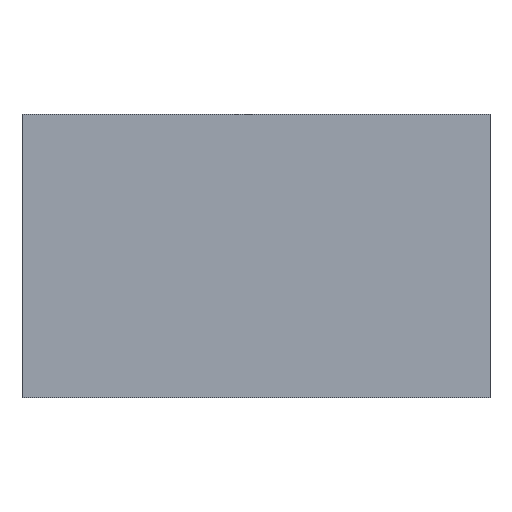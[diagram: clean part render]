
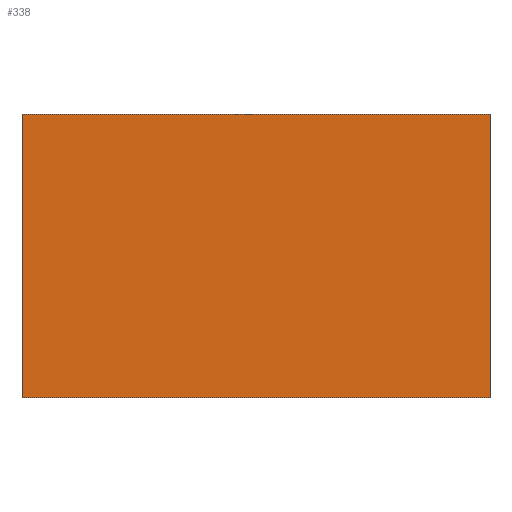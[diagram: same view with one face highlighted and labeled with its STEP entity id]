
A CAD part, top view. The second image highlights one B-rep face of the part: STEP entity #338.
In plain terms, the highlighted planar face has unit normal (0, 0, 1).
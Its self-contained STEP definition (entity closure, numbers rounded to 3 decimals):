
#24 = VERTEX_POINT('',#25);
#25 = CARTESIAN_POINT('',(60.,-10.,37.));
#32 = PLANE('',#33);
#33 = AXIS2_PLACEMENT_3D('',#34,#35,#36);
#34 = CARTESIAN_POINT('',(60.,-10.,28.));
#35 = DIRECTION('',(1.,0.,0.));
#36 = DIRECTION('',(0.,0.,1.));
#44 = PLANE('',#45);
#45 = AXIS2_PLACEMENT_3D('',#46,#47,#48);
#46 = CARTESIAN_POINT('',(60.,-10.,28.));
#47 = DIRECTION('',(0.,1.,0.));
#48 = DIRECTION('',(0.,0.,1.));
#85 = VERTEX_POINT('',#86);
#86 = CARTESIAN_POINT('',(60.,10.,37.));
#100 = PLANE('',#101);
#101 = AXIS2_PLACEMENT_3D('',#102,#103,#104);
#102 = CARTESIAN_POINT('',(60.,10.,28.));
#103 = DIRECTION('',(0.,1.,0.));
#104 = DIRECTION('',(0.,0.,1.));
#112 = EDGE_CURVE('',#24,#85,#113,.T.);
#113 = SURFACE_CURVE('',#114,(#118,#125),.PCURVE_S1.);
#114 = LINE('',#115,#116);
#115 = CARTESIAN_POINT('',(60.,-10.,37.));
#116 = VECTOR('',#117,1.);
#117 = DIRECTION('',(0.,1.,0.));
#118 = PCURVE('',#32,#119);
#119 = DEFINITIONAL_REPRESENTATION('',(#120),#124);
#120 = LINE('',#121,#122);
#121 = CARTESIAN_POINT('',(9.,0.));
#122 = VECTOR('',#123,1.);
#123 = DIRECTION('',(0.,-1.));
#124 = ( GEOMETRIC_REPRESENTATION_CONTEXT(2) 
PARAMETRIC_REPRESENTATION_CONTEXT() REPRESENTATION_CONTEXT('2D SPACE',''
  ) );
#125 = PCURVE('',#126,#131);
#126 = PLANE('',#127);
#127 = AXIS2_PLACEMENT_3D('',#128,#129,#130);
#128 = CARTESIAN_POINT('',(60.,-10.,37.));
#129 = DIRECTION('',(0.,0.,1.));
#130 = DIRECTION('',(1.,0.,0.));
#131 = DEFINITIONAL_REPRESENTATION('',(#132),#136);
#132 = LINE('',#133,#134);
#133 = CARTESIAN_POINT('',(0.,0.));
#134 = VECTOR('',#135,1.);
#135 = DIRECTION('',(0.,1.));
#136 = ( GEOMETRIC_REPRESENTATION_CONTEXT(2) 
PARAMETRIC_REPRESENTATION_CONTEXT() REPRESENTATION_CONTEXT('2D SPACE',''
  ) );
#144 = VERTEX_POINT('',#145);
#145 = CARTESIAN_POINT('',(93.,-10.,37.));
#152 = PLANE('',#153);
#153 = AXIS2_PLACEMENT_3D('',#154,#155,#156);
#154 = CARTESIAN_POINT('',(93.,-10.,28.));
#155 = DIRECTION('',(1.,0.,0.));
#156 = DIRECTION('',(0.,0.,1.));
#195 = VERTEX_POINT('',#196);
#196 = CARTESIAN_POINT('',(93.,10.,37.));
#217 = EDGE_CURVE('',#144,#195,#218,.T.);
#218 = SURFACE_CURVE('',#219,(#223,#230),.PCURVE_S1.);
#219 = LINE('',#220,#221);
#220 = CARTESIAN_POINT('',(93.,-10.,37.));
#221 = VECTOR('',#222,1.);
#222 = DIRECTION('',(0.,1.,0.));
#223 = PCURVE('',#152,#224);
#224 = DEFINITIONAL_REPRESENTATION('',(#225),#229);
#225 = LINE('',#226,#227);
#226 = CARTESIAN_POINT('',(9.,0.));
#227 = VECTOR('',#228,1.);
#228 = DIRECTION('',(0.,-1.));
#229 = ( GEOMETRIC_REPRESENTATION_CONTEXT(2) 
PARAMETRIC_REPRESENTATION_CONTEXT() REPRESENTATION_CONTEXT('2D SPACE',''
  ) );
#230 = PCURVE('',#126,#231);
#231 = DEFINITIONAL_REPRESENTATION('',(#232),#236);
#232 = LINE('',#233,#234);
#233 = CARTESIAN_POINT('',(33.,0.));
#234 = VECTOR('',#235,1.);
#235 = DIRECTION('',(0.,1.));
#236 = ( GEOMETRIC_REPRESENTATION_CONTEXT(2) 
PARAMETRIC_REPRESENTATION_CONTEXT() REPRESENTATION_CONTEXT('2D SPACE',''
  ) );
#263 = EDGE_CURVE('',#24,#144,#264,.T.);
#264 = SURFACE_CURVE('',#265,(#269,#276),.PCURVE_S1.);
#265 = LINE('',#266,#267);
#266 = CARTESIAN_POINT('',(60.,-10.,37.));
#267 = VECTOR('',#268,1.);
#268 = DIRECTION('',(1.,0.,0.));
#269 = PCURVE('',#44,#270);
#270 = DEFINITIONAL_REPRESENTATION('',(#271),#275);
#271 = LINE('',#272,#273);
#272 = CARTESIAN_POINT('',(9.,0.));
#273 = VECTOR('',#274,1.);
#274 = DIRECTION('',(0.,1.));
#275 = ( GEOMETRIC_REPRESENTATION_CONTEXT(2) 
PARAMETRIC_REPRESENTATION_CONTEXT() REPRESENTATION_CONTEXT('2D SPACE',''
  ) );
#276 = PCURVE('',#126,#277);
#277 = DEFINITIONAL_REPRESENTATION('',(#278),#282);
#278 = LINE('',#279,#280);
#279 = CARTESIAN_POINT('',(0.,0.));
#280 = VECTOR('',#281,1.);
#281 = DIRECTION('',(1.,0.));
#282 = ( GEOMETRIC_REPRESENTATION_CONTEXT(2) 
PARAMETRIC_REPRESENTATION_CONTEXT() REPRESENTATION_CONTEXT('2D SPACE',''
  ) );
#310 = EDGE_CURVE('',#85,#195,#311,.T.);
#311 = SURFACE_CURVE('',#312,(#316,#323),.PCURVE_S1.);
#312 = LINE('',#313,#314);
#313 = CARTESIAN_POINT('',(60.,10.,37.));
#314 = VECTOR('',#315,1.);
#315 = DIRECTION('',(1.,0.,0.));
#316 = PCURVE('',#100,#317);
#317 = DEFINITIONAL_REPRESENTATION('',(#318),#322);
#318 = LINE('',#319,#320);
#319 = CARTESIAN_POINT('',(9.,0.));
#320 = VECTOR('',#321,1.);
#321 = DIRECTION('',(0.,1.));
#322 = ( GEOMETRIC_REPRESENTATION_CONTEXT(2) 
PARAMETRIC_REPRESENTATION_CONTEXT() REPRESENTATION_CONTEXT('2D SPACE',''
  ) );
#323 = PCURVE('',#126,#324);
#324 = DEFINITIONAL_REPRESENTATION('',(#325),#329);
#325 = LINE('',#326,#327);
#326 = CARTESIAN_POINT('',(0.,20.));
#327 = VECTOR('',#328,1.);
#328 = DIRECTION('',(1.,0.));
#329 = ( GEOMETRIC_REPRESENTATION_CONTEXT(2) 
PARAMETRIC_REPRESENTATION_CONTEXT() REPRESENTATION_CONTEXT('2D SPACE',''
  ) );
#338 = ADVANCED_FACE('',(#339),#126,.T.);
#339 = FACE_BOUND('',#340,.T.);
#340 = EDGE_LOOP('',(#341,#342,#343,#344));
#341 = ORIENTED_EDGE('',*,*,#112,.F.);
#342 = ORIENTED_EDGE('',*,*,#263,.T.);
#343 = ORIENTED_EDGE('',*,*,#217,.T.);
#344 = ORIENTED_EDGE('',*,*,#310,.F.);
